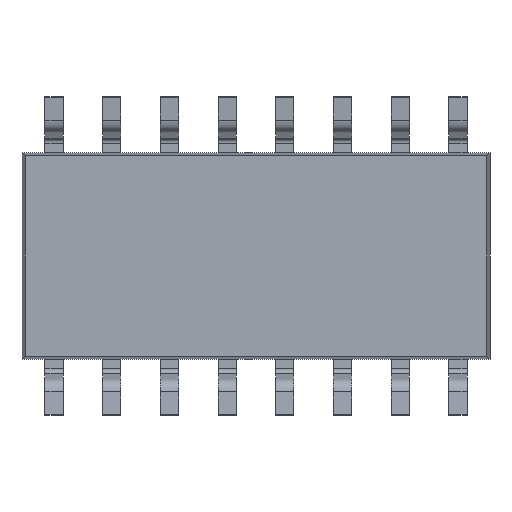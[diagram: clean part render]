
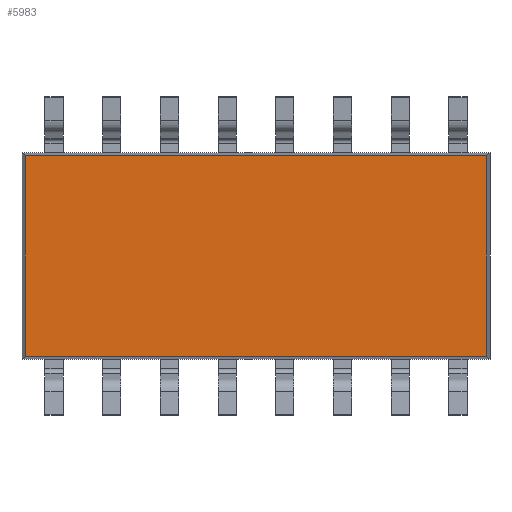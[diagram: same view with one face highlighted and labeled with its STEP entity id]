
A CAD part, front view. The second image highlights one B-rep face of the part: STEP entity #5983.
In plain terms, the highlighted planar face has unit normal (0, -1, 0).
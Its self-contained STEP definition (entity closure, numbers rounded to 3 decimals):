
#23 = CARTESIAN_POINT ( 'NONE',  ( 0., -1., 0. ) ) ;
#124 = CARTESIAN_POINT ( 'NONE',  ( 5.08, -1., -2.205 ) ) ;
#217 = LINE ( 'NONE', #4484, #8940 ) ;
#453 = EDGE_LOOP ( 'NONE', ( #1359, #8204, #2256, #5298 ) ) ;
#477 = FACE_OUTER_BOUND ( 'NONE', #453, .T. ) ;
#871 = EDGE_CURVE ( 'NONE', #3716, #10274, #4845, .T. ) ;
#1060 = VECTOR ( 'NONE', #5129, 1000. ) ;
#1359 = ORIENTED_EDGE ( 'NONE', *, *, #871, .F. ) ;
#1543 = CARTESIAN_POINT ( 'NONE',  ( 0., -1., -2.205 ) ) ;
#1713 = LINE ( 'NONE', #1543, #4481 ) ;
#1890 = LINE ( 'NONE', #6618, #10463 ) ;
#2256 = ORIENTED_EDGE ( 'NONE', *, *, #6262, .F. ) ;
#2875 = CARTESIAN_POINT ( 'NONE',  ( 5.08, -1., 2.205 ) ) ;
#3716 = VERTEX_POINT ( 'NONE', #7361 ) ;
#4408 = AXIS2_PLACEMENT_3D ( 'NONE', #23, #9850, #6728 ) ;
#4481 = VECTOR ( 'NONE', #7327, 1000. ) ;
#4484 = CARTESIAN_POINT ( 'NONE',  ( 5.08, -1., 0. ) ) ;
#4845 = LINE ( 'NONE', #9872, #1060 ) ;
#5026 = DIRECTION ( 'NONE',  ( 1., 0., 0. ) ) ;
#5129 = DIRECTION ( 'NONE',  ( 0., 0., 1. ) ) ;
#5298 = ORIENTED_EDGE ( 'NONE', *, *, #8518, .F. ) ;
#5584 = VERTEX_POINT ( 'NONE', #124 ) ;
#5634 = VERTEX_POINT ( 'NONE', #2875 ) ;
#5983 = ADVANCED_FACE ( 'NONE', ( #477 ), #6698, .F. ) ;
#6236 = CARTESIAN_POINT ( 'NONE',  ( -5.08, -1., 2.205 ) ) ;
#6262 = EDGE_CURVE ( 'NONE', #5634, #5584, #217, .T. ) ;
#6618 = CARTESIAN_POINT ( 'NONE',  ( 0., -1., 2.205 ) ) ;
#6698 = PLANE ( 'NONE',  #4408 ) ;
#6728 = DIRECTION ( 'NONE',  ( 0., 0., 1. ) ) ;
#7327 = DIRECTION ( 'NONE',  ( -1., 0., 0. ) ) ;
#7361 = CARTESIAN_POINT ( 'NONE',  ( -5.08, -1., -2.205 ) ) ;
#7793 = DIRECTION ( 'NONE',  ( 0., 0., -1. ) ) ;
#8204 = ORIENTED_EDGE ( 'NONE', *, *, #9466, .F. ) ;
#8518 = EDGE_CURVE ( 'NONE', #10274, #5634, #1890, .T. ) ;
#8940 = VECTOR ( 'NONE', #7793, 1000. ) ;
#9466 = EDGE_CURVE ( 'NONE', #5584, #3716, #1713, .T. ) ;
#9850 = DIRECTION ( 'NONE',  ( 0., 1., 0. ) ) ;
#9872 = CARTESIAN_POINT ( 'NONE',  ( -5.08, -1., 0. ) ) ;
#10274 = VERTEX_POINT ( 'NONE', #6236 ) ;
#10463 = VECTOR ( 'NONE', #5026, 1000. ) ;
